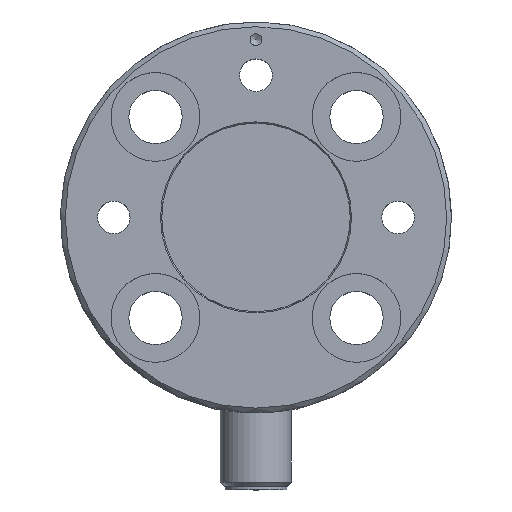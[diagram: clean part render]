
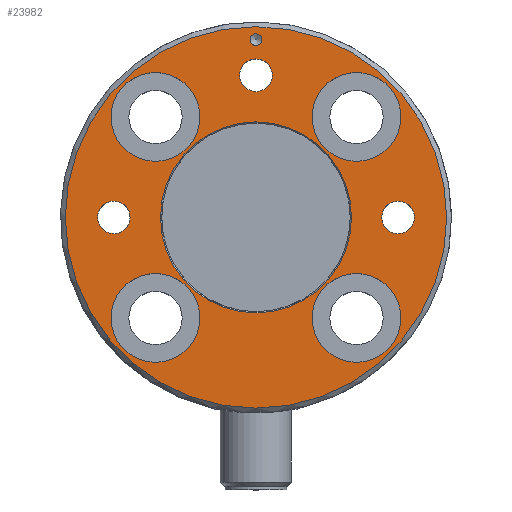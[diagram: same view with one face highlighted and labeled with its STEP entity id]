
A CAD part, top view. The second image highlights one B-rep face of the part: STEP entity #23982.
In plain terms, the highlighted planar face has unit normal (0, 0, 1).
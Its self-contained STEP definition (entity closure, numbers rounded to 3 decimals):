
#23477=CARTESIAN_POINT('',(24.471,16.971,20.0));
#23478=VERTEX_POINT('',#23477);
#23479=CARTESIAN_POINT('',(16.971,16.971,20.0));
#23480=DIRECTION('',(0.0,0.0,-1.0));
#23481=DIRECTION('',(1.0,0.0,0.0));
#23482=AXIS2_PLACEMENT_3D('',#23479,#23480,#23481);
#23483=CIRCLE('',#23482,7.5);
#23484=EDGE_CURVE('',#23478,#23478,#23483,.T.);
#23579=CARTESIAN_POINT('',(-16.971,24.471,20.0));
#23580=VERTEX_POINT('',#23579);
#23581=CARTESIAN_POINT('',(-16.971,16.971,20.0));
#23582=DIRECTION('',(0.0,0.0,-1.0));
#23583=DIRECTION('',(0.0,1.0,0.0));
#23584=AXIS2_PLACEMENT_3D('',#23581,#23582,#23583);
#23585=CIRCLE('',#23584,7.5);
#23586=EDGE_CURVE('',#23580,#23580,#23585,.T.);
#23681=CARTESIAN_POINT('',(-24.471,-16.971,20.0));
#23682=VERTEX_POINT('',#23681);
#23683=CARTESIAN_POINT('',(-16.971,-16.971,20.0));
#23684=DIRECTION('',(0.0,0.0,-1.0));
#23685=DIRECTION('',(-1.0,0.0,0.0));
#23686=AXIS2_PLACEMENT_3D('',#23683,#23684,#23685);
#23687=CIRCLE('',#23686,7.5);
#23688=EDGE_CURVE('',#23682,#23682,#23687,.T.);
#23783=CARTESIAN_POINT('',(16.971,-24.471,20.0));
#23784=VERTEX_POINT('',#23783);
#23785=CARTESIAN_POINT('',(16.971,-16.971,20.0));
#23786=DIRECTION('',(0.0,0.0,-1.0));
#23787=DIRECTION('',(0.0,-1.0,0.0));
#23788=AXIS2_PLACEMENT_3D('',#23785,#23786,#23787);
#23789=CIRCLE('',#23788,7.5);
#23790=EDGE_CURVE('',#23784,#23784,#23789,.T.);
#23895=CARTESIAN_POINT('',(16.125,0.,20.0));
#23896=VERTEX_POINT('',#23895);
#23897=CARTESIAN_POINT('',(0.0,0.0,20.0));
#23898=DIRECTION('',(0.0,0.0,1.0));
#23899=DIRECTION('',(-1.0,0.0,0.0));
#23900=AXIS2_PLACEMENT_3D('',#23897,#23898,#23899);
#23901=CIRCLE('',#23900,16.125);
#23902=EDGE_CURVE('',#23896,#23896,#23901,.T.);
#23907=CARTESIAN_POINT('',(0.0,0.0,20.0));
#23908=DIRECTION('',(0.0,0.0,-1.0));
#23909=DIRECTION('',(-1.0,0.0,0.0));
#23910=AXIS2_PLACEMENT_3D('',#23907,#23908,#23909);
#23911=PLANE('',#23910);
#23912=CARTESIAN_POINT('',(32.2,0.,20.0));
#23913=VERTEX_POINT('',#23912);
#23914=CARTESIAN_POINT('',(0.0,0.0,20.0));
#23915=DIRECTION('',(0.0,0.0,-1.0));
#23916=DIRECTION('',(-1.0,0.0,0.0));
#23917=AXIS2_PLACEMENT_3D('',#23914,#23915,#23916);
#23918=CIRCLE('',#23917,32.2);
#23919=EDGE_CURVE('',#23913,#23913,#23918,.T.);
#23920=ORIENTED_EDGE('',*,*,#23919,.F.);
#23921=EDGE_LOOP('',(#23920));
#23922=FACE_OUTER_BOUND('',#23921,.T.);
#23923=CARTESIAN_POINT('',(-24.,2.75,20.0));
#23924=VERTEX_POINT('',#23923);
#23925=CARTESIAN_POINT('',(-24.,0.,20.0));
#23926=DIRECTION('',(0.0,0.0,-1.0));
#23927=DIRECTION('',(0.0,-1.0,0.0));
#23928=AXIS2_PLACEMENT_3D('',#23925,#23926,#23927);
#23929=CIRCLE('',#23928,2.75);
#23930=EDGE_CURVE('',#23924,#23924,#23929,.T.);
#23931=ORIENTED_EDGE('',*,*,#23930,.T.);
#23932=EDGE_LOOP('',(#23931));
#23933=FACE_BOUND('',#23932,.T.);
#23934=CARTESIAN_POINT('',(24.,-2.75,20.0));
#23935=VERTEX_POINT('',#23934);
#23936=CARTESIAN_POINT('',(24.,0.,20.0));
#23937=DIRECTION('',(0.0,0.0,-1.0));
#23938=DIRECTION('',(0.0,1.0,0.0));
#23939=AXIS2_PLACEMENT_3D('',#23936,#23937,#23938);
#23940=CIRCLE('',#23939,2.75);
#23941=EDGE_CURVE('',#23935,#23935,#23940,.T.);
#23942=ORIENTED_EDGE('',*,*,#23941,.T.);
#23943=EDGE_LOOP('',(#23942));
#23944=FACE_BOUND('',#23943,.T.);
#23945=CARTESIAN_POINT('',(2.75,24.,20.0));
#23946=VERTEX_POINT('',#23945);
#23947=CARTESIAN_POINT('',(0.0,24.,20.0));
#23948=DIRECTION('',(0.0,0.0,-1.0));
#23949=DIRECTION('',(-1.0,0.0,0.0));
#23950=AXIS2_PLACEMENT_3D('',#23947,#23948,#23949);
#23951=CIRCLE('',#23950,2.75);
#23952=EDGE_CURVE('',#23946,#23946,#23951,.T.);
#23953=ORIENTED_EDGE('',*,*,#23952,.T.);
#23954=EDGE_LOOP('',(#23953));
#23955=FACE_BOUND('',#23954,.T.);
#23956=CARTESIAN_POINT('',(1.0,30.0,20.0));
#23957=VERTEX_POINT('',#23956);
#23958=CARTESIAN_POINT('',(0.0,30.0,20.0));
#23959=DIRECTION('',(0.0,0.0,-1.0));
#23960=DIRECTION('',(1.0,0.0,0.0));
#23961=AXIS2_PLACEMENT_3D('',#23958,#23959,#23960);
#23962=CIRCLE('',#23961,1.0);
#23963=EDGE_CURVE('',#23957,#23957,#23962,.T.);
#23964=ORIENTED_EDGE('',*,*,#23963,.T.);
#23965=EDGE_LOOP('',(#23964));
#23966=FACE_BOUND('',#23965,.T.);
#23967=ORIENTED_EDGE('',*,*,#23902,.F.);
#23968=EDGE_LOOP('',(#23967));
#23969=FACE_BOUND('',#23968,.T.);
#23970=ORIENTED_EDGE('',*,*,#23790,.T.);
#23971=EDGE_LOOP('',(#23970));
#23972=FACE_BOUND('',#23971,.T.);
#23973=ORIENTED_EDGE('',*,*,#23688,.T.);
#23974=EDGE_LOOP('',(#23973));
#23975=FACE_BOUND('',#23974,.T.);
#23976=ORIENTED_EDGE('',*,*,#23586,.T.);
#23977=EDGE_LOOP('',(#23976));
#23978=FACE_BOUND('',#23977,.T.);
#23979=ORIENTED_EDGE('',*,*,#23484,.T.);
#23980=EDGE_LOOP('',(#23979));
#23981=FACE_BOUND('',#23980,.T.);
#23982=ADVANCED_FACE('',(#23922,#23933,#23944,#23955,#23966,#23969,#23972,#23975,#23978,#23981),#23911,.F.);
